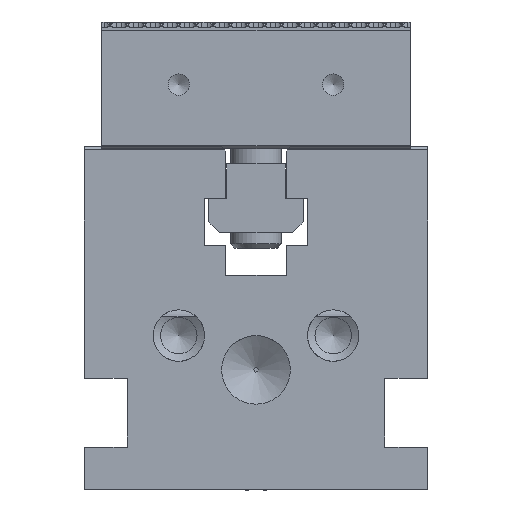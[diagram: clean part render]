
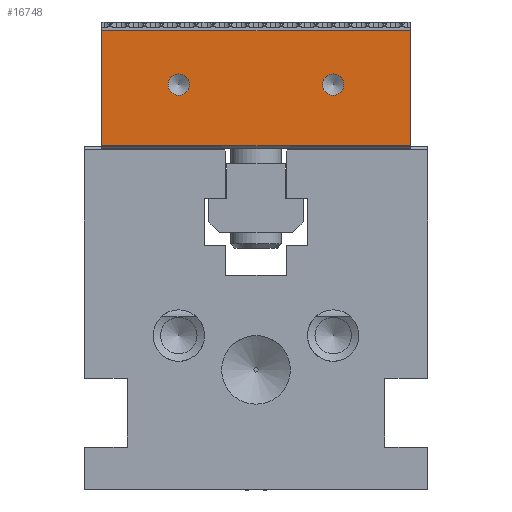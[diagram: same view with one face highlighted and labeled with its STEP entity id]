
A CAD part, left-side view. The second image highlights one B-rep face of the part: STEP entity #16748.
In plain terms, the highlighted planar face has unit normal (-1, 0, 0).
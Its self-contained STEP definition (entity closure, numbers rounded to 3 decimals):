
#10480=CARTESIAN_POINT('',(-200.,-36.,107.));
#10481=VERTEX_POINT('',#10480);
#10488=CARTESIAN_POINT('',(-200.,-36.,80.3));
#10489=VERTEX_POINT('',#10488);
#10490=CARTESIAN_POINT('',(-200.,-36.,107.));
#10491=DIRECTION('',(0.0,0.0,-1.0));
#10492=VECTOR('',#10491,1.0);
#10493=LINE('',#10490,#10492);
#10494=EDGE_CURVE('',#10481,#10489,#10493,.T.);
#12534=CARTESIAN_POINT('',(-200.,36.,80.3));
#12535=VERTEX_POINT('',#12534);
#12542=CARTESIAN_POINT('',(-200.,36.,107.));
#12543=VERTEX_POINT('',#12542);
#12544=CARTESIAN_POINT('',(-200.,36.,80.3));
#12545=DIRECTION('',(0.0,0.0,1.0));
#12546=VECTOR('',#12545,1.0);
#12547=LINE('',#12544,#12546);
#12548=EDGE_CURVE('',#12535,#12543,#12547,.T.);
#16705=CARTESIAN_POINT('',(-200.,39.6,78.965));
#16706=DIRECTION('',(-1.0,0.,0.));
#16707=DIRECTION('',(0.,-1.0,0.0));
#16708=AXIS2_PLACEMENT_3D('',#16705,#16706,#16707);
#16709=PLANE('',#16708);
#16710=CARTESIAN_POINT('',(-200.,36.,107.));
#16711=DIRECTION('',(0.,-1.0,0.0));
#16712=VECTOR('',#16711,1.0);
#16713=LINE('',#16710,#16712);
#16714=EDGE_CURVE('',#12543,#10481,#16713,.T.);
#16715=ORIENTED_EDGE('',*,*,#16714,.F.);
#16716=ORIENTED_EDGE('',*,*,#12548,.F.);
#16717=CARTESIAN_POINT('',(-200.,-36.,80.3));
#16718=DIRECTION('',(0.0,1.0,0.0));
#16719=VECTOR('',#16718,1.0);
#16720=LINE('',#16717,#16719);
#16721=EDGE_CURVE('',#10489,#12535,#16720,.T.);
#16722=ORIENTED_EDGE('',*,*,#16721,.F.);
#16723=ORIENTED_EDGE('',*,*,#10494,.F.);
#16724=EDGE_LOOP('',(#16715,#16716,#16722,#16723));
#16725=FACE_OUTER_BOUND('',#16724,.T.);
#16726=CARTESIAN_POINT('',(-200.,15.5,94.5));
#16727=VERTEX_POINT('',#16726);
#16728=CARTESIAN_POINT('',(-200.,18.,94.5));
#16729=DIRECTION('',(-1.0,0.,0.));
#16730=DIRECTION('',(0.,-1.0,0.));
#16731=AXIS2_PLACEMENT_3D('',#16728,#16729,#16730);
#16732=CIRCLE('',#16731,2.5);
#16733=EDGE_CURVE('',#16727,#16727,#16732,.T.);
#16734=ORIENTED_EDGE('',*,*,#16733,.F.);
#16735=EDGE_LOOP('',(#16734));
#16736=FACE_BOUND('',#16735,.T.);
#16737=CARTESIAN_POINT('',(-200.,-20.5,94.5));
#16738=VERTEX_POINT('',#16737);
#16739=CARTESIAN_POINT('',(-200.,-18.,94.5));
#16740=DIRECTION('',(-1.0,0.,0.));
#16741=DIRECTION('',(0.,-1.0,0.0));
#16742=AXIS2_PLACEMENT_3D('',#16739,#16740,#16741);
#16743=CIRCLE('',#16742,2.5);
#16744=EDGE_CURVE('',#16738,#16738,#16743,.T.);
#16745=ORIENTED_EDGE('',*,*,#16744,.F.);
#16746=EDGE_LOOP('',(#16745));
#16747=FACE_BOUND('',#16746,.T.);
#16748=ADVANCED_FACE('',(#16725,#16736,#16747),#16709,.T.);
